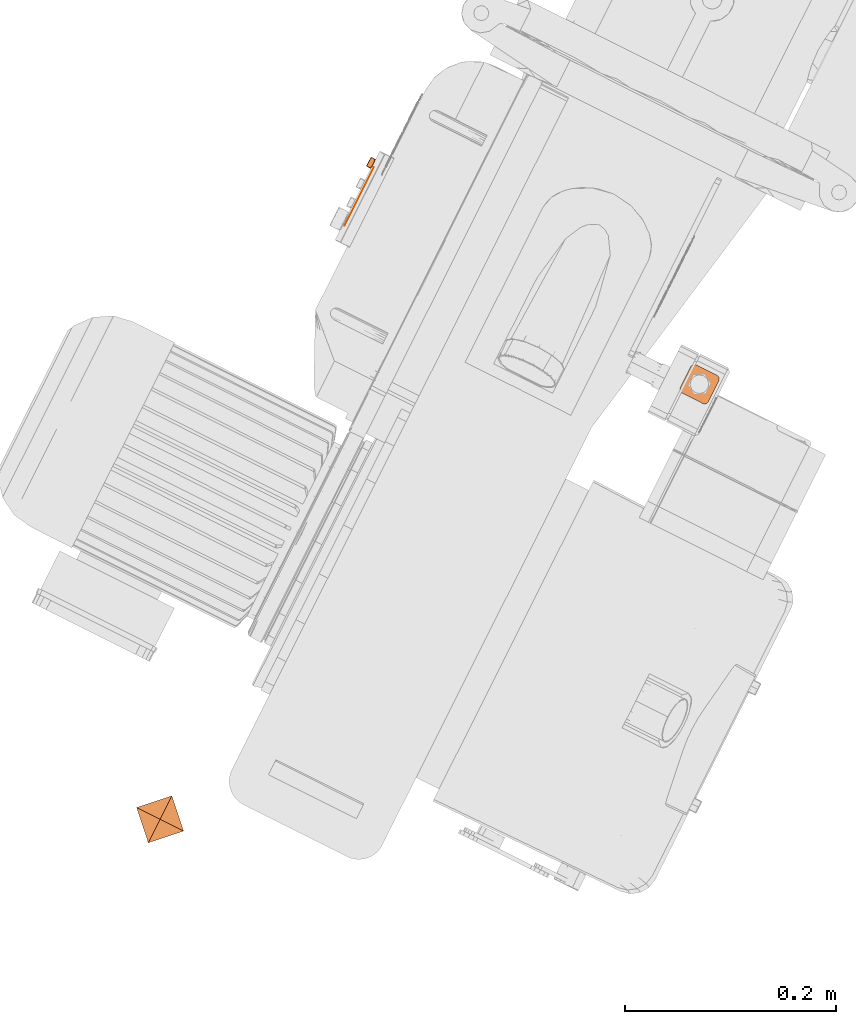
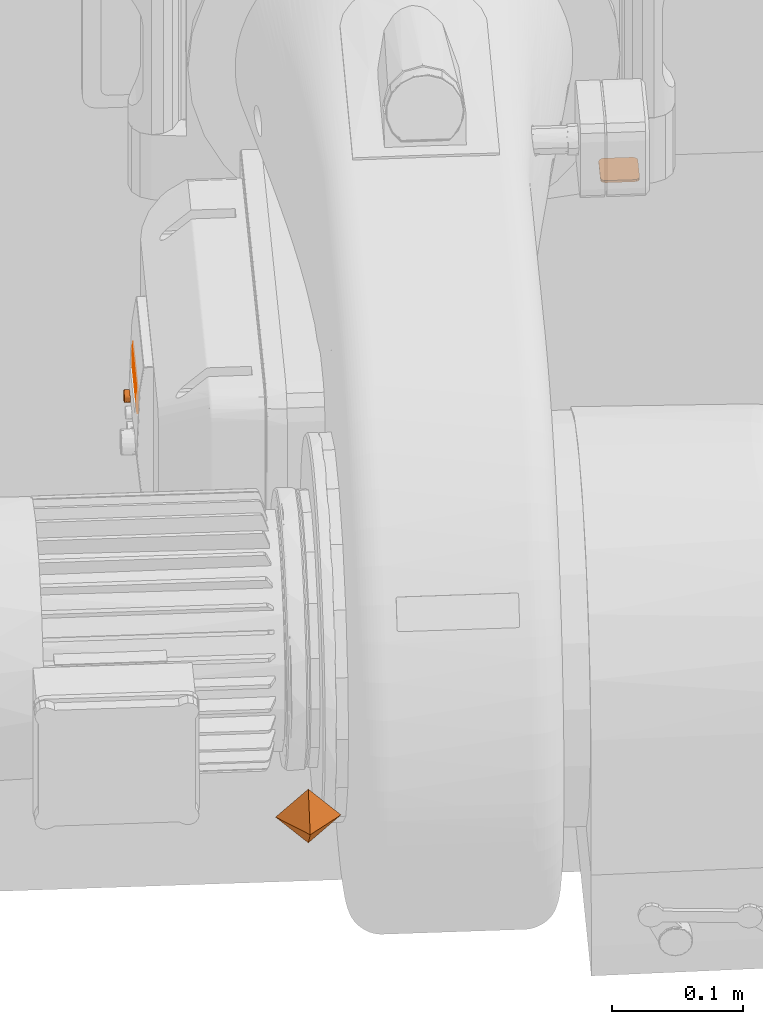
# One storey, part 197 of 206: 4 proxies.
"""IFC2X3 building model written with IfcOpenShell, lengths in metres."""

from ifc_helpers import new_model, si_unit, derived_unit, direction, frame, origin, place, context, subcontext, project, spatial, face_set, faceted_brep, surface_model, source, transform, mapped, material, type_object, type_shapes, element, save


model = new_model("IFC2X3")

# Units and contexts
model_context = context("Model", 3, precision=5.2338327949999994e-05, world=origin(), true_north=direction((0.0, 1.0)))
body_context = subcontext(model_context, "Body", "Model", "MODEL_VIEW")
ifc_project = project(units=[si_unit("LENGTHUNIT", "METRE"), si_unit("AREAUNIT", "SQUARE_METRE"), si_unit("VOLUMEUNIT", "CUBIC_METRE"), si_unit("MASSUNIT", "GRAM", prefix="KILO"), si_unit("PLANEANGLEUNIT", "RADIAN"), derived_unit("THERMALTRANSMITTANCEUNIT", [(si_unit("MASSUNIT", "GRAM", prefix="KILO"), 1), (si_unit("THERMODYNAMICTEMPERATUREUNIT", "KELVIN"), -1), (si_unit("TIMEUNIT", "SECOND"), -3)])], contexts=[model_context])

# Site, building, storey
site_placement = place(None, frame((0.0, 0.0, 0.0), z_axis=(0.0, 0.0, 1.0), x_axis=(0.8939966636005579, -0.4480736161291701, 0.0)))
site = spatial("IfcSite", under=ifc_project, at=site_placement, Name="Default", CompositionType="ELEMENT")
building_placement = place(site_placement, origin())
building = spatial("IfcBuilding", under=site, at=building_placement, CompositionType="ELEMENT")
storey_placement = place(building_placement, origin())
storey = spatial("IfcBuildingStorey", under=building, at=storey_placement, Name="Erdgeschoss", CompositionType="ELEMENT", Elevation=0.0)

# Proxies
ifc_material_1 = material(Name="IfcSurfaceStyle #624876")
building_element_proxy_type_1 = type_object("IfcBuildingElementProxyType", Name="BuildingElementProxy 35:BuildingElementProxy 35", PredefinedType="NOTDEFINED", material=ifc_material_1)
shared_shape_1 = source(origin(), body_context, "Body", "Brep", [
    faceted_brep([(21.605021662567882, 4.510841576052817, 0.8943319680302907), (21.609021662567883, 4.5068415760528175, 0.8943319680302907), (21.594021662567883, 4.510841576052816, 0.8943319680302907), (21.609021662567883, 4.495841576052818, 0.8943319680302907), (21.579021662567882, 4.495841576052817, 0.8943319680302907), (21.594021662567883, 4.480841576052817, 0.8943319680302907), (21.579021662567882, 4.484841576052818, 0.8943319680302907), (21.583021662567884, 4.480841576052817, 0.8943319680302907), (21.579326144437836, 4.483310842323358, 0.8943319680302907), (21.58019323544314, 4.48201314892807, 0.8943319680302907), (21.579021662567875, 4.5068415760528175, 0.8943319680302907), (21.583021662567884, 4.510841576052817, 0.8943319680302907), (21.579326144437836, 4.5083723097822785, 0.8943319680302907), (21.58019323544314, 4.509670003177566, 0.8943319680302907), (21.581490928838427, 4.510537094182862, 0.8943319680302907), (21.606552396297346, 4.510537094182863, 0.8943319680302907), (21.607850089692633, 4.509670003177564, 0.8943319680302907), (21.608717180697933, 4.5083723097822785, 0.8943319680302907), (21.60902166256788, 4.484841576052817, 0.8943319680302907), (21.605021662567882, 4.480841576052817, 0.8943319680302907), (21.608717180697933, 4.483310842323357, 0.8943319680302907), (21.607850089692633, 4.48201314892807, 0.8943319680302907), (21.606552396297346, 4.481146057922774, 0.8943319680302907), (21.581490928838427, 4.481146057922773, 0.8943319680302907), (21.609021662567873, 4.506841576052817, 0.8963319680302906), (21.608717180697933, 4.5083723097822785, 0.8963319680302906), (21.607850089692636, 4.509670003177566, 0.8963319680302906), (21.606552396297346, 4.510537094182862, 0.8963319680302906), (21.605021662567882, 4.510841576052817, 0.8963319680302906), (21.594021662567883, 4.510841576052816, 0.8963319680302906), (21.583021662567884, 4.510841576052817, 0.8963319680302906), (21.581490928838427, 4.510537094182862, 0.8963319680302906), (21.58019323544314, 4.509670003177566, 0.8963319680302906), (21.579326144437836, 4.5083723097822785, 0.8963319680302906), (21.579021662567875, 4.5068415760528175, 0.8963319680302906), (21.579021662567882, 4.495841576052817, 0.8963319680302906), (21.579021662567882, 4.484841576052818, 0.8963319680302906), (21.609021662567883, 4.495841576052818, 0.8963319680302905), (21.594021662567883, 4.480841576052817, 0.8963319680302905), (21.583021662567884, 4.480841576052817, 0.8963319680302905), (21.581490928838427, 4.481146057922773, 0.8963319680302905), (21.579326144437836, 4.483310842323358, 0.8963319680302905), (21.58019323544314, 4.48201314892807, 0.8963319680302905), (21.60902166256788, 4.484841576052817, 0.8963319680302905), (21.605021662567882, 4.480841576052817, 0.8963319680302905), (21.606552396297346, 4.481146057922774, 0.8963319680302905), (21.607850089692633, 4.48201314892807, 0.8963319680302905), (21.608717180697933, 4.483310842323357, 0.8963319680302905)], [[[0, 1, 2]], [[2, 1, 3]], [[2, 3, 4]], [[4, 3, 5]], [[4, 5, 6]], [[6, 5, 7]], [[6, 7, 8]], [[8, 7, 9]], [[4, 10, 2]], [[2, 10, 11]], [[12, 13, 10]], [[10, 13, 14]], [[10, 14, 11]], [[0, 15, 1]], [[1, 15, 16]], [[1, 16, 17]], [[3, 18, 5]], [[5, 18, 19]], [[18, 20, 19]], [[19, 20, 21]], [[19, 21, 22]], [[7, 23, 9]], [[1, 17, 24]], [[24, 17, 25]], [[17, 16, 25]], [[25, 16, 26]], [[16, 15, 26]], [[26, 15, 27]], [[15, 0, 27]], [[27, 0, 28]], [[28, 0, 29]], [[29, 0, 2]], [[29, 2, 30]], [[30, 2, 11]], [[11, 14, 30]], [[30, 14, 31]], [[14, 13, 31]], [[31, 13, 32]], [[13, 12, 32]], [[32, 12, 33]], [[12, 10, 33]], [[33, 10, 34]], [[34, 10, 35]], [[35, 10, 4]], [[35, 4, 36]], [[36, 4, 6]], [[25, 28, 24]], [[24, 28, 29]], [[24, 29, 37]], [[37, 29, 35]], [[37, 35, 38]], [[38, 35, 36]], [[38, 36, 39]], [[39, 36, 40]], [[25, 26, 28]], [[28, 26, 27]], [[35, 29, 34]], [[34, 29, 30]], [[34, 30, 33]], [[33, 30, 32]], [[30, 31, 32]], [[41, 42, 36]], [[36, 42, 40]], [[37, 38, 43]], [[43, 38, 44]], [[43, 44, 45]], [[45, 46, 43]], [[43, 46, 47]], [[43, 18, 37]], [[37, 18, 3]], [[37, 3, 24]], [[24, 3, 1]], [[19, 22, 44]], [[44, 22, 45]], [[22, 21, 45]], [[45, 21, 46]], [[21, 20, 46]], [[46, 20, 47]], [[20, 18, 47]], [[47, 18, 43]], [[39, 7, 38]], [[38, 7, 5]], [[38, 5, 44]], [[44, 5, 19]], [[6, 8, 36]], [[36, 8, 41]], [[8, 9, 41]], [[41, 9, 42]], [[9, 23, 42]], [[42, 23, 40]], [[23, 7, 40]], [[40, 7, 39]]]),
])
type_shapes(building_element_proxy_type_1, [shared_shape_1])
proxy_1_placement = place(storey_placement, origin())
element("IfcBuildingElementProxy", 1, at=proxy_1_placement, inside=storey, type_object=building_element_proxy_type_1, material=ifc_material_1, Name="BuildingElementProxy 35", context=body_context, shape_type="MappedRepresentation", body=[
    mapped(shared_shape_1, transform((0.0, 0.0, 0.0), scale=1.0)),
])
ifc_material_2 = material(Name="IfcSurfaceStyle #623543")
building_element_proxy_type_2 = type_object("IfcBuildingElementProxyType", Name="BuildingElementProxy 73:BuildingElementProxy 73", PredefinedType="NOTDEFINED", material=ifc_material_2)
shared_shape_2 = source(origin(), body_context, "Body", "SurfaceModel", [
    surface_model("IfcFaceBasedSurfaceModel", [(21.22327664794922, 4.540929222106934, 0.6701360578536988), (21.223281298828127, 4.540163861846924, 0.669983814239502), (21.223295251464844, 4.539515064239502, 0.6695500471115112), (21.22334408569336, 4.538929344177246, 0.6681357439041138), (21.22334408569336, 4.548929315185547, 0.6681357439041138), (21.22327664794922, 4.5469294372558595, 0.6701360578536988), (21.223555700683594, 4.540929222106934, 0.6631348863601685), (21.223527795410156, 4.539515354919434, 0.6637206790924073), (21.223546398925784, 4.540164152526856, 0.6632871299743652), (21.223555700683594, 4.5469294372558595, 0.6631348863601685), (21.223546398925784, 4.547694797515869, 0.6632871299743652), (21.223527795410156, 4.548343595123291, 0.663720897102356), (21.223497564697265, 4.548776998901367, 0.6643697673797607), (21.22331618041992, 4.548776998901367, 0.6689012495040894), (21.223295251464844, 4.548343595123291, 0.6695503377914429), (21.223281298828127, 4.547694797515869, 0.669983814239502), (21.218955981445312, 4.548890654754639, 0.6647626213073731), (21.218953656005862, 4.548776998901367, 0.6643877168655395), (21.218953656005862, 4.548591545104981, 0.6640408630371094), (21.21895133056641, 4.548343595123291, 0.6637391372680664), (21.21895133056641, 4.548038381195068, 0.6634889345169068), (21.218949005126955, 4.547694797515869, 0.6633054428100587), (21.218949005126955, 4.547318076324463, 0.6631914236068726), (21.218949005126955, 4.5469294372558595, 0.6631531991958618), (21.218949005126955, 4.543929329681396, 0.6631531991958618), (21.218949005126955, 4.540929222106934, 0.6631531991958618), (21.218949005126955, 4.54053883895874, 0.6631917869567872), (21.218949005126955, 4.540163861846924, 0.6633055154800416), (21.21895133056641, 4.539817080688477, 0.6634911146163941), (21.21895133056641, 4.539515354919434, 0.6637389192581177), (21.218953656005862, 4.539265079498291, 0.6640440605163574), (21.218451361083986, 4.540929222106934, 0.6636552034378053), (21.218451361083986, 4.543929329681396, 0.6636552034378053), (21.218488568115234, 4.540929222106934, 0.663463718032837), (21.218488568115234, 4.5469294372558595, 0.663463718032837), (21.218595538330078, 4.5469294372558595, 0.663301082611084), (21.218451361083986, 4.5469294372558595, 0.6636552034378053), (21.218595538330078, 4.540929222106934, 0.663301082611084), (21.218758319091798, 4.5469294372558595, 0.6631920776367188), (21.218758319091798, 4.540929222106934, 0.6631920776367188), (21.21885133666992, 4.5469294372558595, 0.6631632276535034), (21.21885133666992, 4.540929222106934, 0.6631632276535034), (21.218451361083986, 4.547501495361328, 0.663768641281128), (21.218488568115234, 4.54757445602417, 0.6635916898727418), (21.21859786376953, 4.5476363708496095, 0.6634411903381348), (21.218758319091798, 4.547310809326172, 0.6632302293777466), (21.218758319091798, 4.547677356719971, 0.6633409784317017), (21.21885133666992, 4.547688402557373, 0.663314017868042), (21.218758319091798, 4.548016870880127, 0.6635218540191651), (21.218853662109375, 4.548032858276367, 0.6634975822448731), (21.21876064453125, 4.548315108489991, 0.6637658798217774), (21.218853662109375, 4.548335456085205, 0.663745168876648), (21.218855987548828, 4.548583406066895, 0.6640468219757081), (21.21845368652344, 4.54798896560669, 0.6640936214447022), (21.218490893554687, 4.548124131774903, 0.6639580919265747), (21.21859786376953, 4.5482389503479, 0.6638428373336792), (21.21849321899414, 4.548491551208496, 0.6645068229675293), (21.218600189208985, 4.548641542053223, 0.6644442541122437), (21.21860484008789, 4.5487828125, 0.6651546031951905), (21.218765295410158, 4.548852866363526, 0.6647705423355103), (21.218765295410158, 4.548891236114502, 0.6651539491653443), (21.21885831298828, 4.548880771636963, 0.6647645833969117), (21.218860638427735, 4.548919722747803, 0.6651535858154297), (21.218958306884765, 4.548929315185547, 0.6651532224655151), (21.218456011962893, 4.548314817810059, 0.6645804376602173), (21.218495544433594, 4.548620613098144, 0.6651550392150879), (21.218458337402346, 4.548429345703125, 0.6651551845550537), (21.218855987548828, 4.548767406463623, 0.6643912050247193), (21.218762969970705, 4.548740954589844, 0.6644026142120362), (21.21876064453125, 4.548559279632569, 0.66406310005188), (21.21885133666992, 4.5473166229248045, 0.663201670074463), (21.21885133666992, 4.540540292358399, 0.6632021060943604), (21.218758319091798, 4.5405458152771, 0.6632305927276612), (21.21859786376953, 4.5402190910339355, 0.6634425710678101), (21.218488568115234, 4.540281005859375, 0.6635929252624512), (21.21859786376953, 4.539617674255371, 0.6638450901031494), (21.218490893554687, 4.539732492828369, 0.6639601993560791), (21.21849321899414, 4.539365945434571, 0.6645099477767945), (21.21845368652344, 4.539867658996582, 0.6640955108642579), (21.218456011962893, 4.539542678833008, 0.6645830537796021), (21.21885133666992, 4.540167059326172, 0.6633154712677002), (21.218758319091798, 4.540178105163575, 0.663342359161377), (21.21876064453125, 4.539838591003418, 0.6635239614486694), (21.21876064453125, 4.53954122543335, 0.6637682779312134), (21.21876064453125, 4.539297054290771, 0.6640663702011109), (21.218855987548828, 4.539273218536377, 0.664050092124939), (21.218855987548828, 4.539089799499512, 0.6643946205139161), (21.218953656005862, 4.539081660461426, 0.6643878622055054), (21.218853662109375, 4.539822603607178, 0.6634996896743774), (21.218853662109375, 4.539520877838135, 0.663747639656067), (21.21885831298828, 4.538977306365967, 0.6647664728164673), (21.218955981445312, 4.538967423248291, 0.6647645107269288), (21.218860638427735, 4.538938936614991, 0.6651535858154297), (21.218958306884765, 4.538929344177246, 0.6651532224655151), (21.218765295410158, 4.538967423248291, 0.6651539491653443), (21.218765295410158, 4.539005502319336, 0.664772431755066), (21.218762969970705, 4.539116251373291, 0.66440595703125), (21.218600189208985, 4.539215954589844, 0.6644475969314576), (21.21860484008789, 4.539075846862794, 0.6651546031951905), (21.218495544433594, 4.539238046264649, 0.6651550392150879), (21.218458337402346, 4.539429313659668, 0.6651551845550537), (21.218451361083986, 4.54035454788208, 0.6637697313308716), (21.21846298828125, 4.548429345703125, 0.6666551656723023), (21.21850717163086, 4.548620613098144, 0.668155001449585), (21.21861646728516, 4.5487828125, 0.6681546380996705), (21.21846996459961, 4.548429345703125, 0.6681552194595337), (21.21877692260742, 4.548891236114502, 0.6681539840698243), (21.218872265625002, 4.548919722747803, 0.6681535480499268), (21.218962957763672, 4.548929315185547, 0.6666532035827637), (21.218969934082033, 4.548929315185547, 0.6681531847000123), (21.218962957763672, 4.538929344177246, 0.6666532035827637), (21.218872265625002, 4.538938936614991, 0.6681535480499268), (21.21877692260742, 4.538967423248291, 0.6681539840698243), (21.218969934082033, 4.538929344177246, 0.6681531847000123), (21.21861646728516, 4.539075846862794, 0.6681546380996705), (21.21850717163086, 4.539238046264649, 0.668155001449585), (21.21846298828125, 4.539429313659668, 0.6666551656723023), (21.21846996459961, 4.539429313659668, 0.6681552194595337), (21.218472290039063, 4.548315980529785, 0.6687273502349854), (21.218509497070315, 4.548492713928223, 0.6688001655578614), (21.21861879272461, 4.548642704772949, 0.6688616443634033), (21.218779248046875, 4.548853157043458, 0.6685355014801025), (21.21878157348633, 4.5487424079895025, 0.6689019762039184), (21.218874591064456, 4.548768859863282, 0.6689125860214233), (21.21878157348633, 4.548561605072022, 0.6692415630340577), (21.21887691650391, 4.548585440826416, 0.6692571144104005), (21.218783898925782, 4.548317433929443, 0.6695396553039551), (21.21887691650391, 4.548337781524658, 0.6695595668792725), (21.21887924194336, 4.548036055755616, 0.669807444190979), (21.21897458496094, 4.548343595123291, 0.6695674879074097), (21.218976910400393, 4.548041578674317, 0.6698152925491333), (21.218472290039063, 4.547991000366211, 0.6692148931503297), (21.218511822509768, 4.548126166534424, 0.6693499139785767), (21.218621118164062, 4.548241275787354, 0.6694640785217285), (21.218514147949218, 4.547577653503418, 0.6697171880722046), (21.218623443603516, 4.54763985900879, 0.6698666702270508), (21.218623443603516, 4.5469294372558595, 0.6700081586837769), (21.218786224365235, 4.547312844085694, 0.6700773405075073), (21.218786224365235, 4.5469294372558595, 0.6701158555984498), (21.21887924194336, 4.547318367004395, 0.670105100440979), (21.21887924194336, 4.5469294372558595, 0.670143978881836), (21.218976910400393, 4.547320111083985, 0.6701146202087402), (21.218976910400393, 4.5469294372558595, 0.6701532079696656), (21.218474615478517, 4.5475041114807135, 0.6695406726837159), (21.218514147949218, 4.5469294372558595, 0.6698463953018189), (21.218474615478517, 4.5469294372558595, 0.6696552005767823), (21.218976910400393, 4.547694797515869, 0.6700008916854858), (21.21887924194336, 4.547691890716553, 0.6699916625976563), (21.218786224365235, 4.54768084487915, 0.6699655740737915), (21.218783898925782, 4.548020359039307, 0.6697839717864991), (21.21897458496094, 4.5485935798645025, 0.66926234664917), (21.218972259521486, 4.548777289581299, 0.668918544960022), (21.218872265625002, 4.548881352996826, 0.6685406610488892), (21.218969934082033, 4.548891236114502, 0.6685418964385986), (21.218969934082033, 4.538968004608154, 0.6685438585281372), (21.218872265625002, 4.538977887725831, 0.6685426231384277), (21.218779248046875, 4.539006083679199, 0.6685373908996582), (21.21861879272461, 4.5392174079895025, 0.6688649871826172), (21.218509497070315, 4.5393671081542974, 0.6688032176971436), (21.218621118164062, 4.539619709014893, 0.6694664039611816), (21.218511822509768, 4.539734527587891, 0.6693519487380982), (21.218514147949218, 4.540284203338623, 0.6697184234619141), (21.218472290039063, 4.539869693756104, 0.6692167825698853), (21.218474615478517, 4.540357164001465, 0.6695417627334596), (21.218972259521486, 4.539081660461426, 0.6689186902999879), (21.218874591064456, 4.53909125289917, 0.6689159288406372), (21.21878157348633, 4.539117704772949, 0.6689053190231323), (21.21878157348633, 4.539299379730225, 0.6692448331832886), (21.218783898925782, 4.539543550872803, 0.6695420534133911), (21.218783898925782, 4.539841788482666, 0.6697860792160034), (21.21887924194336, 4.539825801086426, 0.6698096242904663), (21.21887924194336, 4.54017025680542, 0.6699931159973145), (21.218976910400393, 4.540164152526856, 0.6700009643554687), (21.21897458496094, 4.539267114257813, 0.669265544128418), (21.21887691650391, 4.5392755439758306, 0.6692603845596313), (21.21897458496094, 4.539515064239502, 0.669567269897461), (21.21887691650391, 4.53952349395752, 0.6695620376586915), (21.218976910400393, 4.539820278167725, 0.6698174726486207), (21.21887924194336, 4.54054232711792, 0.6701055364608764), (21.218976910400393, 4.5405405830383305, 0.6701149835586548), (21.21887924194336, 4.540929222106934, 0.670143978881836), (21.218976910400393, 4.540929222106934, 0.6701532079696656), (21.218786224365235, 4.540929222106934, 0.6701158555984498), (21.218786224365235, 4.540547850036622, 0.6700777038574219), (21.218786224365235, 4.540181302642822, 0.6699669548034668), (21.218623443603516, 4.540222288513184, 0.6698679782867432), (21.218623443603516, 4.540929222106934, 0.6700081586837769), (21.218514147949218, 4.540929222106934, 0.6698463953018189), (21.218474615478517, 4.540929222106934, 0.6696552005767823), (21.218472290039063, 4.539543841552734, 0.6687299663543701), (21.218474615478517, 4.543214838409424, 0.6696552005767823), (21.218976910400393, 4.543214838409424, 0.6701532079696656), (21.223295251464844, 4.539515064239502, 0.6695500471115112), (21.22331618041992, 4.539081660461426, 0.6689012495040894), (21.22346268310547, 4.538929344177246, 0.6651352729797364), (21.22346268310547, 4.548929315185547, 0.6651352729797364), (21.223420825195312, 4.538929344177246, 0.666135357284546), (21.223420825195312, 4.548929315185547, 0.666135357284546), (21.22338129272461, 4.538929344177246, 0.6671355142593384), (21.22338129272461, 4.548929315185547, 0.6671355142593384), (21.223497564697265, 4.539081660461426, 0.6643697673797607)], [face_set([[[0, 1, 2]], [[3, 4, 0]], [[0, 4, 5]], [[6, 7, 8]], [[9, 10, 11]], [[9, 11, 12]], [[4, 13, 5]], [[5, 13, 14]], [[5, 14, 15]], [[16, 12, 17]], [[18, 17, 12]], [[12, 11, 18]], [[18, 11, 19]], [[19, 11, 20]], [[20, 11, 10]], [[20, 10, 21]], [[22, 21, 10]], [[22, 10, 9]], [[22, 9, 23]], [[23, 9, 24]], [[24, 9, 6]], [[24, 6, 25]], [[26, 25, 6]], [[26, 6, 8]], [[26, 8, 27]], [[28, 27, 8]], [[8, 7, 28]], [[28, 7, 29]], [[29, 7, 30]], [[31, 32, 33]], [[33, 32, 34]], [[33, 34, 35]], [[32, 36, 34]], [[33, 35, 37]], [[37, 35, 38]], [[37, 38, 39]], [[39, 38, 40]], [[39, 40, 41]], [[41, 40, 24]], [[41, 24, 25]], [[40, 23, 24]], [[34, 36, 42]], [[34, 42, 43]], [[35, 34, 43]], [[35, 43, 44]], [[35, 44, 45]], [[45, 44, 46]], [[45, 46, 47]], [[47, 46, 48]], [[47, 48, 49]], [[49, 48, 50]], [[49, 50, 51]], [[50, 52, 51]], [[51, 52, 19]], [[19, 52, 18]], [[43, 42, 53]], [[43, 53, 54]], [[43, 54, 55]], [[55, 54, 56]], [[55, 56, 57]], [[57, 56, 58]], [[57, 58, 59]], [[59, 58, 60]], [[61, 59, 60]], [[61, 60, 62]], [[16, 61, 62]], [[16, 62, 63]], [[54, 53, 56]], [[56, 53, 64]], [[56, 64, 65]], [[65, 64, 66]], [[56, 65, 58]], [[16, 17, 61]], [[61, 17, 67]], [[61, 67, 59]], [[59, 67, 68]], [[59, 68, 57]], [[57, 68, 69]], [[57, 69, 55]], [[55, 69, 50]], [[55, 50, 48]], [[17, 18, 67]], [[67, 18, 52]], [[67, 52, 69]], [[52, 50, 69]], [[19, 20, 51]], [[51, 20, 49]], [[20, 21, 49]], [[49, 21, 47]], [[21, 70, 47]], [[47, 70, 45]], [[70, 38, 45]], [[45, 38, 35]], [[21, 22, 70]], [[22, 40, 70]], [[70, 40, 38]], [[22, 23, 40]], [[43, 55, 44]], [[44, 55, 48]], [[44, 48, 46]], [[67, 69, 68]], [[25, 26, 41]], [[41, 26, 71]], [[41, 71, 39]], [[39, 71, 72]], [[39, 72, 37]], [[37, 72, 73]], [[37, 73, 74]], [[74, 73, 75]], [[74, 75, 76]], [[77, 76, 75]], [[76, 77, 78]], [[78, 77, 79]], [[26, 27, 71]], [[71, 27, 80]], [[71, 80, 72]], [[72, 80, 81]], [[72, 81, 73]], [[73, 81, 82]], [[73, 82, 75]], [[75, 82, 83]], [[75, 83, 84]], [[85, 84, 83]], [[85, 86, 84]], [[86, 85, 87]], [[27, 28, 80]], [[80, 28, 88]], [[80, 88, 82]], [[88, 83, 82]], [[28, 29, 88]], [[88, 29, 89]], [[88, 89, 83]], [[89, 85, 83]], [[29, 30, 89]], [[89, 30, 85]], [[30, 87, 85]], [[87, 90, 86]], [[90, 87, 91]], [[91, 92, 90]], [[92, 91, 93]], [[94, 90, 92]], [[90, 94, 95]], [[95, 86, 90]], [[86, 95, 96]], [[86, 96, 84]], [[84, 96, 97]], [[75, 84, 97]], [[75, 97, 77]], [[94, 98, 95]], [[97, 95, 98]], [[95, 97, 96]], [[97, 98, 77]], [[77, 98, 99]], [[77, 99, 79]], [[79, 99, 100]], [[76, 78, 74]], [[74, 78, 101]], [[74, 101, 33]], [[33, 101, 31]], [[74, 33, 37]], [[80, 82, 81]], [[65, 66, 102]], [[65, 102, 103]], [[65, 103, 104]], [[102, 105, 103]], [[65, 104, 58]], [[58, 104, 106]], [[58, 106, 60]], [[60, 106, 107]], [[60, 107, 62]], [[62, 107, 108]], [[62, 108, 63]], [[109, 108, 107]], [[92, 93, 110]], [[92, 110, 111]], [[92, 111, 112]], [[110, 113, 111]], [[92, 112, 94]], [[94, 112, 114]], [[94, 114, 98]], [[98, 114, 115]], [[98, 115, 99]], [[99, 115, 116]], [[99, 116, 100]], [[115, 117, 116]], [[103, 105, 118]], [[103, 118, 119]], [[104, 103, 119]], [[104, 119, 120]], [[104, 120, 121]], [[121, 120, 122]], [[121, 122, 123]], [[123, 122, 124]], [[123, 124, 125]], [[125, 124, 126]], [[125, 126, 127]], [[126, 128, 127]], [[127, 128, 129]], [[129, 128, 130]], [[119, 118, 131]], [[119, 131, 132]], [[119, 132, 133]], [[133, 132, 134]], [[133, 134, 135]], [[135, 134, 136]], [[135, 136, 137]], [[137, 136, 138]], [[139, 137, 138]], [[139, 138, 140]], [[141, 139, 140]], [[141, 140, 142]], [[132, 131, 134]], [[134, 131, 143]], [[134, 143, 144]], [[144, 143, 145]], [[134, 144, 136]], [[141, 146, 139]], [[139, 146, 147]], [[139, 147, 137]], [[137, 147, 148]], [[137, 148, 135]], [[135, 148, 149]], [[135, 149, 133]], [[133, 149, 126]], [[133, 126, 124]], [[146, 130, 147]], [[147, 130, 128]], [[147, 128, 149]], [[128, 126, 149]], [[129, 150, 127]], [[127, 150, 125]], [[150, 151, 125]], [[125, 151, 123]], [[151, 152, 123]], [[123, 152, 121]], [[152, 106, 121]], [[121, 106, 104]], [[151, 153, 152]], [[153, 107, 152]], [[152, 107, 106]], [[153, 109, 107]], [[119, 133, 120]], [[120, 133, 124]], [[120, 124, 122]], [[147, 149, 148]], [[113, 154, 111]], [[111, 154, 155]], [[111, 155, 112]], [[112, 155, 156]], [[112, 156, 114]], [[114, 156, 157]], [[114, 157, 158]], [[158, 157, 159]], [[158, 159, 160]], [[161, 160, 159]], [[160, 161, 162]], [[162, 161, 163]], [[154, 164, 155]], [[155, 164, 165]], [[155, 165, 156]], [[156, 165, 166]], [[156, 166, 157]], [[157, 166, 167]], [[157, 167, 159]], [[159, 167, 168]], [[159, 168, 169]], [[170, 169, 168]], [[170, 171, 169]], [[171, 170, 172]], [[164, 173, 165]], [[165, 173, 174]], [[165, 174, 167]], [[174, 168, 167]], [[173, 175, 174]], [[174, 175, 176]], [[174, 176, 168]], [[176, 170, 168]], [[175, 177, 176]], [[176, 177, 170]], [[177, 172, 170]], [[172, 178, 171]], [[178, 172, 179]], [[179, 180, 178]], [[180, 179, 181]], [[182, 178, 180]], [[178, 182, 183]], [[183, 171, 178]], [[171, 183, 184]], [[171, 184, 169]], [[169, 184, 185]], [[159, 169, 185]], [[159, 185, 161]], [[182, 186, 183]], [[185, 183, 186]], [[183, 185, 184]], [[185, 186, 161]], [[161, 186, 187]], [[161, 187, 163]], [[163, 187, 188]], [[160, 162, 158]], [[158, 162, 189]], [[158, 189, 115]], [[115, 189, 117]], [[158, 115, 114]], [[165, 167, 166]], [[145, 190, 144]], [[144, 190, 187]], [[144, 187, 186]], [[190, 188, 187]], [[144, 186, 136]], [[136, 186, 182]], [[136, 182, 138]], [[138, 182, 180]], [[138, 180, 140]], [[140, 180, 191]], [[140, 191, 142]], [[180, 181, 191]], [[154, 113, 3]], [[173, 192, 175]], [[175, 192, 177]], [[177, 192, 1]], [[177, 1, 172]], [[179, 172, 1]], [[179, 1, 0]], [[179, 0, 181]], [[116, 117, 188]], [[116, 188, 190]], [[116, 190, 32]], [[32, 190, 102]], [[32, 102, 36]], [[36, 102, 66]], [[36, 66, 64]], [[32, 31, 116]], [[116, 31, 100]], [[31, 101, 100]], [[100, 101, 78]], [[100, 78, 79]], [[117, 189, 188]], [[188, 189, 162]], [[188, 162, 163]], [[190, 145, 102]], [[102, 145, 105]], [[145, 143, 105]], [[105, 143, 131]], [[105, 131, 118]], [[64, 53, 36]], [[36, 53, 42]], [[141, 142, 5]], [[141, 5, 15]], [[141, 15, 146]], [[130, 146, 15]], [[15, 14, 130]], [[130, 14, 129]], [[129, 14, 150]], [[150, 14, 13]], [[150, 13, 151]], [[153, 151, 13]], [[153, 13, 4]], [[153, 4, 109]], [[181, 0, 191]], [[191, 0, 5]], [[191, 5, 142]], [[0, 192, 193]], [[0, 193, 3]], [[194, 6, 9]], [[194, 9, 195]], [[196, 194, 195]], [[196, 195, 197]], [[196, 197, 198]], [[198, 197, 199]], [[3, 198, 199]], [[3, 199, 4]], [[194, 200, 6]], [[6, 200, 7]], [[9, 12, 195]], [[63, 195, 16]], [[16, 195, 12]], [[30, 7, 200]], [[30, 200, 87]], [[91, 87, 200]], [[91, 200, 194]], [[91, 194, 93]], [[194, 196, 93]], [[93, 196, 110]], [[196, 198, 110]], [[110, 198, 113]], [[198, 3, 113]], [[154, 3, 193]], [[154, 193, 164]], [[173, 164, 193]], [[193, 192, 173]], [[109, 4, 199]], [[109, 199, 108]], [[199, 197, 108]], [[108, 197, 63]], [[197, 195, 63]]])]),
])
type_shapes(building_element_proxy_type_2, [shared_shape_2])
proxy_2_placement = place(storey_placement, origin())
element("IfcBuildingElementProxy", 2, at=proxy_2_placement, inside=storey, type_object=building_element_proxy_type_2, material=ifc_material_2, Name="BuildingElementProxy 73", context=body_context, shape_type="MappedRepresentation", body=[
    mapped(shared_shape_2, transform((0.0, 0.0, 0.0), scale=1.0)),
])
ifc_material_3 = material(Name="IfcSurfaceStyle #823620")
building_element_proxy_type_3 = type_object("IfcBuildingElementProxyType", Name="BuildingElementProxy 97:BuildingElementProxy 97", PredefinedType="NOTDEFINED", material=ifc_material_3)
shared_shape_3 = source(origin(), body_context, "Body", "SurfaceModel", [
    surface_model("IfcFaceBasedSurfaceModel", [(21.2254880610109, 4.479429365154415, 0.7198772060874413), (21.225488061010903, 4.541429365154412, 0.719877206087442), (21.22538885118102, 4.479429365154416, 0.6949688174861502), (21.225388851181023, 4.541429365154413, 0.6949688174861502)], [face_set([[[0, 1, 2]], [[2, 1, 3]]])]),
])
type_shapes(building_element_proxy_type_3, [shared_shape_3])
proxy_3_placement = place(storey_placement, origin())
element("IfcBuildingElementProxy", 3, at=proxy_3_placement, inside=storey, type_object=building_element_proxy_type_3, material=ifc_material_3, Name="BuildingElementProxy 97", context=body_context, shape_type="MappedRepresentation", body=[
    mapped(shared_shape_3, transform((0.0, 0.0, 0.0), scale=1.0)),
])
building_element_proxy_type_4 = type_object("IfcBuildingElementProxyType", Name="DirectShape:Gebäudeautomation", PredefinedType="NOTDEFINED")
proxy_4_placement = place(storey_placement, origin())
element("IfcBuildingElementProxy", 4, at=proxy_4_placement, inside=storey, type_object=building_element_proxy_type_4, Name="DirectShape:Heizkessel 1 Brennermotor", context=body_context, shape_type="Brep", body=[
    faceted_brep([(21.32128694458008, 3.897058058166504, 0.6989205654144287), (21.296286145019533, 3.897058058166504, 0.7239205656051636), (21.32128694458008, 3.922057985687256, 0.7239205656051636), (21.32128694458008, 3.8720578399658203, 0.7239205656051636), (21.34628541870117, 3.897058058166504, 0.7239205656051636), (21.32128694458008, 3.897058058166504, 0.7489205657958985)], [[[0, 1, 2]], [[0, 3, 1]], [[0, 4, 3]], [[0, 2, 4]], [[5, 2, 1]], [[5, 1, 3]], [[5, 3, 4]], [[5, 4, 2]]]),
])

save(model, "model.ifc")
